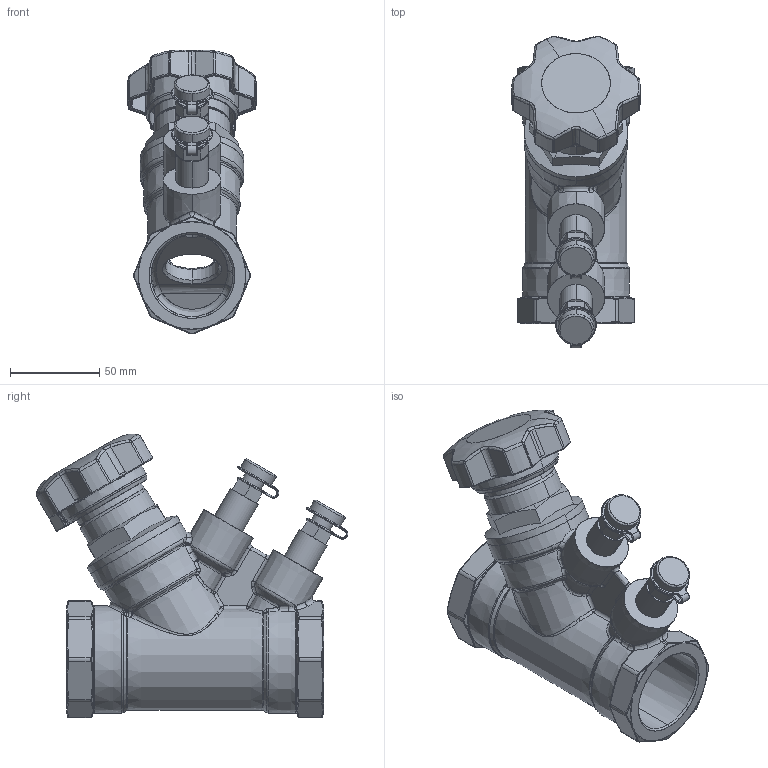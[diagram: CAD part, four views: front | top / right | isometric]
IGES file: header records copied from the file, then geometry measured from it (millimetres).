
Start section: SolidWorks IGES file using analytic representation for surfaces
Global section: file name: C:\Users\Administrator\Desktop\temp\0.IGS; native system: SolidWorks 2015; preprocessor: SolidWorks 2015; author: Administrator; date: 170404.134636; units: millimetre
Bounding box: 71.91 x 174.61 x 159.02 mm (x, y, z)
Surface area: 134581.9 mm2 (no closed solid volume)
Topology: 0 solids, 0 shells, 1131 faces, 11451 edges, 11369 vertices
Faces by surface type: bspline 744, revolution 387
